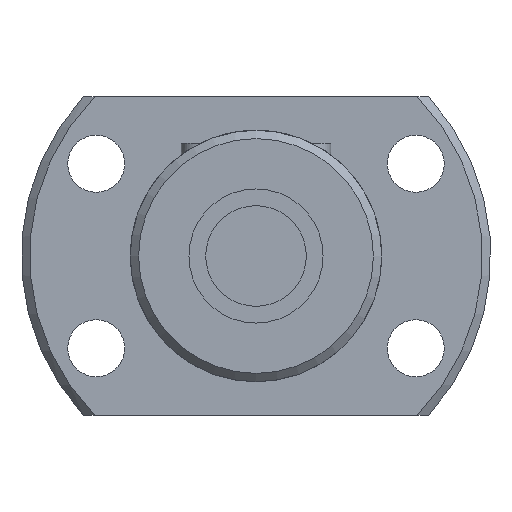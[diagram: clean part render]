
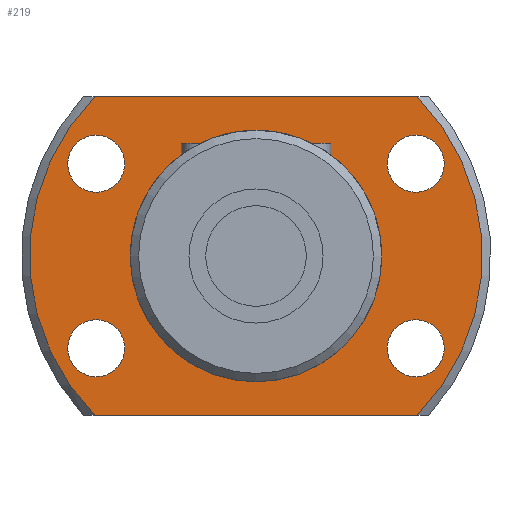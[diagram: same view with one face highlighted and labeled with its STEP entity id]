
A CAD part, left-side view. The second image highlights one B-rep face of the part: STEP entity #219.
In plain terms, the highlighted planar face has unit normal (-1, 0, 0).
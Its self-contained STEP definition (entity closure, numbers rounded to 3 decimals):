
#219 = ADVANCED_FACE( '', ( #339, #340, #341, #342, #343, #344 ), #345, .F. );
#339 = FACE_OUTER_BOUND( '', #472, .T. );
#340 = FACE_BOUND( '', #473, .T. );
#341 = FACE_BOUND( '', #474, .T. );
#342 = FACE_BOUND( '', #475, .T. );
#343 = FACE_BOUND( '', #476, .T. );
#344 = FACE_BOUND( '', #477, .T. );
#345 = PLANE( '', #478 );
#472 = EDGE_LOOP( '', ( #852, #853, #854, #855 ) );
#473 = EDGE_LOOP( '', ( #856 ) );
#474 = EDGE_LOOP( '', ( #857 ) );
#475 = EDGE_LOOP( '', ( #858 ) );
#476 = EDGE_LOOP( '', ( #859 ) );
#477 = EDGE_LOOP( '', ( #860 ) );
#478 = AXIS2_PLACEMENT_3D( '', #861, #862, #863 );
#852 = ORIENTED_EDGE( '', *, *, #945, .F. );
#853 = ORIENTED_EDGE( '', *, *, #959, .T. );
#854 = ORIENTED_EDGE( '', *, *, #1003, .F. );
#855 = ORIENTED_EDGE( '', *, *, #939, .T. );
#856 = ORIENTED_EDGE( '', *, *, #996, .T. );
#857 = ORIENTED_EDGE( '', *, *, #994, .T. );
#858 = ORIENTED_EDGE( '', *, *, #992, .T. );
#859 = ORIENTED_EDGE( '', *, *, #990, .T. );
#860 = ORIENTED_EDGE( '', *, *, #1002, .T. );
#861 = CARTESIAN_POINT( '', ( 13., 7.25, 0. ) );
#862 = DIRECTION( '', ( 1., 0., 0. ) );
#863 = DIRECTION( '', ( 0., 0., -1. ) );
#939 = EDGE_CURVE( '', #1095, #1093, #1096, .T. );
#945 = EDGE_CURVE( '', #1106, #1093, #1107, .T. );
#959 = EDGE_CURVE( '', #1106, #1132, #1134, .T. );
#990 = EDGE_CURVE( '', #1183, #1183, #1184, .T. );
#992 = EDGE_CURVE( '', #1187, #1187, #1188, .T. );
#994 = EDGE_CURVE( '', #1191, #1191, #1192, .T. );
#996 = EDGE_CURVE( '', #1195, #1195, #1196, .T. );
#1002 = EDGE_CURVE( '', #1203, #1203, #1204, .T. );
#1003 = EDGE_CURVE( '', #1095, #1132, #1205, .T. );
#1093 = VERTEX_POINT( '', #1380 );
#1095 = VERTEX_POINT( '', #1385 );
#1096 = LINE( '', #1386, #1387 );
#1106 = VERTEX_POINT( '', #1408 );
#1107 = CIRCLE( '', #1409, 13.5 );
#1132 = VERTEX_POINT( '', #1440 );
#1134 = LINE( '', #1445, #1446 );
#1183 = VERTEX_POINT( '', #1521 );
#1184 = CIRCLE( '', #1522, 1.7 );
#1187 = VERTEX_POINT( '', #1525 );
#1188 = CIRCLE( '', #1526, 1.7 );
#1191 = VERTEX_POINT( '', #1529 );
#1192 = CIRCLE( '', #1530, 1.7 );
#1195 = VERTEX_POINT( '', #1533 );
#1196 = CIRCLE( '', #1534, 1.7 );
#1203 = VERTEX_POINT( '', #1547 );
#1204 = CIRCLE( '', #1548, 7.25 );
#1205 = CIRCLE( '', #1549, 13.5 );
#1380 = CARTESIAN_POINT( '', ( 13., 9.592, 9.5 ) );
#1385 = CARTESIAN_POINT( '', ( 13., -9.592, 9.5 ) );
#1386 = CARTESIAN_POINT( '', ( 13., 7.25, 9.5 ) );
#1387 = VECTOR( '', #1619, 1000. );
#1408 = CARTESIAN_POINT( '', ( 13., 9.592, -9.5 ) );
#1409 = AXIS2_PLACEMENT_3D( '', #1622, #1623, #1624 );
#1440 = CARTESIAN_POINT( '', ( 13., -9.592, -9.5 ) );
#1445 = CARTESIAN_POINT( '', ( 13., 7.25, -9.5 ) );
#1446 = VECTOR( '', #1652, 1000. );
#1521 = CARTESIAN_POINT( '', ( 13., 9.526, 3.8 ) );
#1522 = AXIS2_PLACEMENT_3D( '', #1697, #1698, #1699 );
#1525 = CARTESIAN_POINT( '', ( 13., 9.526, -7.2 ) );
#1526 = AXIS2_PLACEMENT_3D( '', #1703, #1704, #1705 );
#1529 = CARTESIAN_POINT( '', ( 13., -9.526, -7.2 ) );
#1530 = AXIS2_PLACEMENT_3D( '', #1709, #1710, #1711 );
#1533 = CARTESIAN_POINT( '', ( 13., -9.526, 3.8 ) );
#1534 = AXIS2_PLACEMENT_3D( '', #1715, #1716, #1717 );
#1547 = CARTESIAN_POINT( '', ( 13., 0., -7.25 ) );
#1548 = AXIS2_PLACEMENT_3D( '', #1727, #1728, #1729 );
#1549 = AXIS2_PLACEMENT_3D( '', #1730, #1731, #1732 );
#1619 = DIRECTION( '', ( 0., 1., 0. ) );
#1622 = CARTESIAN_POINT( '', ( 13., 0., 0. ) );
#1623 = DIRECTION( '', ( 1., 0., 0. ) );
#1624 = DIRECTION( '', ( 0., 0., -1. ) );
#1652 = DIRECTION( '', ( 0., -1., 0. ) );
#1697 = CARTESIAN_POINT( '', ( 13., 9.526, 5.5 ) );
#1698 = DIRECTION( '', ( 1., 0., 0. ) );
#1699 = DIRECTION( '', ( 0., 0., -1. ) );
#1703 = CARTESIAN_POINT( '', ( 13., 9.526, -5.5 ) );
#1704 = DIRECTION( '', ( 1., 0., 0. ) );
#1705 = DIRECTION( '', ( 0., 0., -1. ) );
#1709 = CARTESIAN_POINT( '', ( 13., -9.526, -5.5 ) );
#1710 = DIRECTION( '', ( 1., 0., 0. ) );
#1711 = DIRECTION( '', ( 0., 0., -1. ) );
#1715 = CARTESIAN_POINT( '', ( 13., -9.526, 5.5 ) );
#1716 = DIRECTION( '', ( 1., 0., 0. ) );
#1717 = DIRECTION( '', ( 0., 0., -1. ) );
#1727 = CARTESIAN_POINT( '', ( 13., 0., 0. ) );
#1728 = DIRECTION( '', ( 1., 0., 0. ) );
#1729 = DIRECTION( '', ( 0., 0., -1. ) );
#1730 = CARTESIAN_POINT( '', ( 13., 0., 0. ) );
#1731 = DIRECTION( '', ( 1., 0., 0. ) );
#1732 = DIRECTION( '', ( 0., 0., -1. ) );
